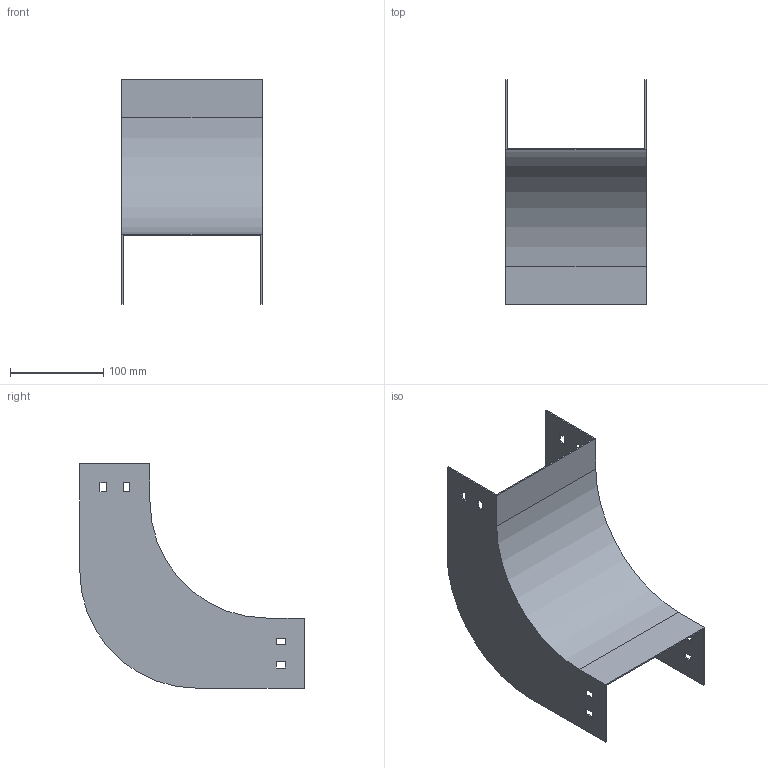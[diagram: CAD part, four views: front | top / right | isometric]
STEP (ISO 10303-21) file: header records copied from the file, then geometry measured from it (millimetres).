
FILE_DESCRIPTION (( 'STEP AP214' ), '1' );
FILE_NAME ('D9_157.step', '2025-07-16T09:08:30', ( '' ), ( '' ), 'SwSTEP 2.0', 'SolidWorks 2023', '' );
FILE_SCHEMA (( 'AUTOMOTIVE_DESIGN' ));
Length unit declared in the file: millimetre
Products named in the file (1): D9_157
Bounding box: 150 x 240 x 240 mm (x, y, z)
Volume: 151479.8 mm3; surface area: 204547.6 mm2
Topology: 1 solids, 1 shells, 50 faces, 144 edges, 96 vertices
Faces by surface type: plane 46, cylinder 4
Entity records: 1671 total; most frequent: CARTESIAN_POINT 291, ORIENTED_EDGE 288, DIRECTION 254, EDGE_CURVE 144, VECTOR 136, LINE 136, VERTEX_POINT 96, EDGE_LOOP 66
